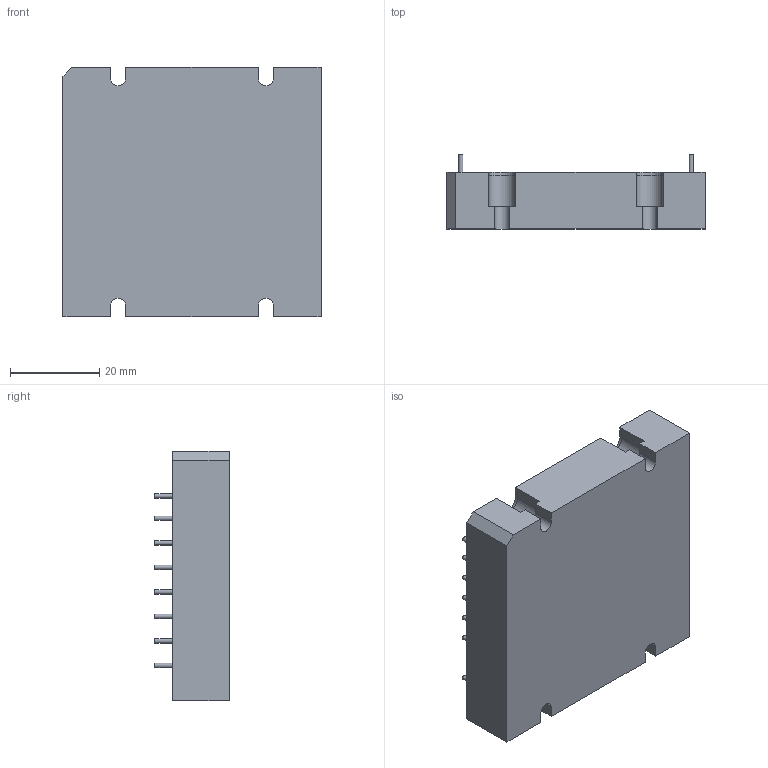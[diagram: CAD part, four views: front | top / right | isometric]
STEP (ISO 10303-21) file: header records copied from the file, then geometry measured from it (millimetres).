
FILE_DESCRIPTION(/* description */ (''),/* implementation_level */ '2;1');
FILE_NAME(/* name */ '',/* time_stamp */ '2024-03-21T16:09:42+01:00',/* author */ (''),/* organization */ (''),/* preprocessor_version */ 'ST-DEVELOPER v18.1',/* originating_system */ ' ',/* authorisation */ '');
FILE_SCHEMA (('AUTOMOTIVE_DESIGN { 1 0 10303 214 3 1 1 }'));
Length unit declared in the file: millimetre
Products named in the file (1): case_V2_v1_pins
Bounding box: 57.9 x 16.7 x 55.9 mm (x, y, z)
Volume: 39975.5 mm3; surface area: 15988.3 mm2
Topology: 16 solids, 17 shells, 129 faces, 288 edges, 192 vertices
Faces by surface type: plane 92, cylinder 36, cone 1
Full cylindrical faces by diameter (mm): 1 x14
Entity records: 3670 total; most frequent: DIRECTION 620, CARTESIAN_POINT 609, ORIENTED_EDGE 574, EDGE_CURVE 287, LINE 214, VECTOR 214, AXIS2_PLACEMENT_3D 203, VERTEX_POINT 192
